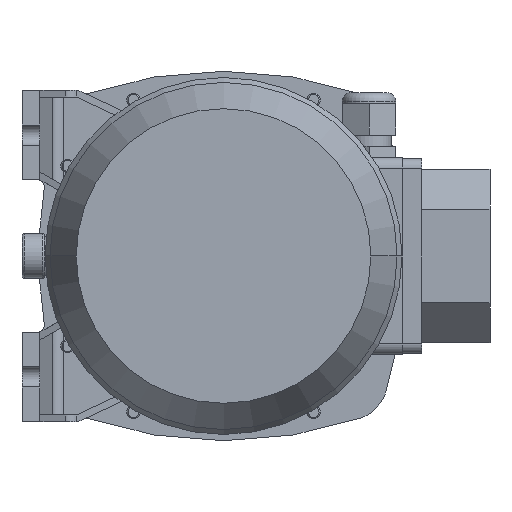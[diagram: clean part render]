
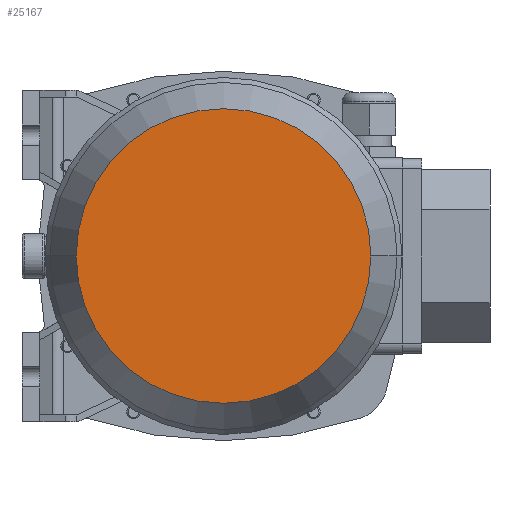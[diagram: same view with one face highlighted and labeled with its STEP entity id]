
A CAD part, front view. The second image highlights one B-rep face of the part: STEP entity #25167.
In plain terms, the highlighted planar face has unit normal (0, -1, 0) as drawn and (1, 0, 0) by its records, which use the part's own axes.
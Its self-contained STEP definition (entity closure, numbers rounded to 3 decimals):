
#18479=CARTESIAN_POINT('',(228.,0.,0.));
#18480=DIRECTION('',(-1.,0.,0.));
#18481=DIRECTION('',(0.,1.,0.));
#18482=AXIS2_PLACEMENT_3D('',#18479,#18480,#18481);
#18487=CARTESIAN_POINT('',(228.,0.,0.));
#18488=DIRECTION('',(1.,0.,0.));
#18489=DIRECTION('',(0.,1.,0.));
#18490=AXIS2_PLACEMENT_3D('',#18487,#18488,#18489);
#20460=CARTESIAN_POINT('',(228.,65.794,0.));
#20462=VERTEX_POINT('',#20460);
#20470=CARTESIAN_POINT('',(228.,-65.794,0.));
#20472=VERTEX_POINT('',#20470);
#25158=CARTESIAN_POINT('',(228.,0.,0.));
#25159=DIRECTION('',(1.,0.,0.));
#25160=DIRECTION('',(0.,-1.,0.));
#25161=AXIS2_PLACEMENT_3D('',#25158,#25159,#25160);
#25162=PLANE('',#25161);
#25163=ORIENTED_EDGE('',*,*,#25140,.T.);
#25164=ORIENTED_EDGE('',*,*,#25151,.F.);
#25165=EDGE_LOOP('',(#25163,#25164));
#25166=FACE_OUTER_BOUND('',#25165,.F.);
#18483=CIRCLE('',#18482,65.794);
#18491=CIRCLE('',#18490,65.794);
#25140=EDGE_CURVE('',#20462,#20472,#18483,.T.);
#25151=EDGE_CURVE('',#20462,#20472,#18491,.T.);
#25167=ADVANCED_FACE('',(#25166),#25162,.T.);
